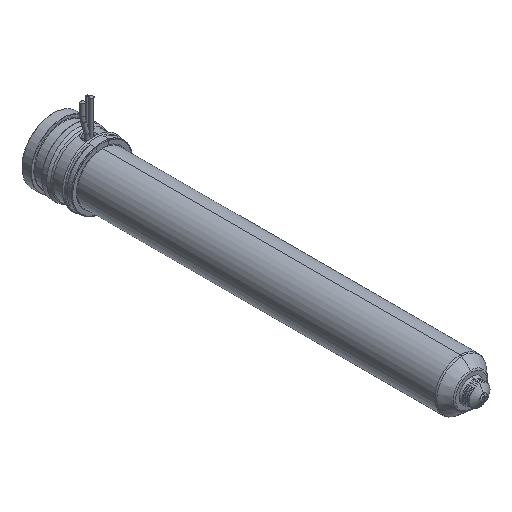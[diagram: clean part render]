
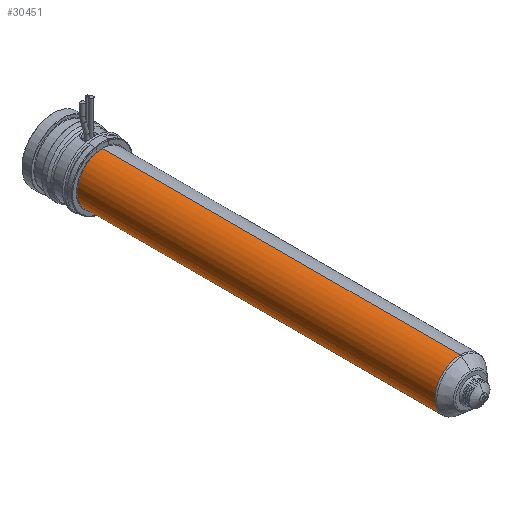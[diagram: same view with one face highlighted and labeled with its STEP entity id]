
A CAD part, isometric view. The second image highlights one B-rep face of the part: STEP entity #30451.
In plain terms, the highlighted cylindrical face has radius 12 mm (diameter 24 mm), a partial arc.
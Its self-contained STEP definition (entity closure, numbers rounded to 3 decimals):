
#29844=CARTESIAN_POINT('',(0.,-193.736,0.));
#29845=DIRECTION('',(0.,-1.,0.));
#29846=DIRECTION('',(0.,0.,1.));
#29847=AXIS2_PLACEMENT_3D('',#29844,#29845,#29846);
#29852=CARTESIAN_POINT('',(0.,-24.,0.));
#29853=DIRECTION('',(0.,1.,0.));
#29854=DIRECTION('',(0.,0.,-1.));
#29855=AXIS2_PLACEMENT_3D('',#29852,#29853,#29854);
#29860=DIRECTION('',(0.,1.,0.));
#29861=VECTOR('',#29860,169.736);
#29862=CARTESIAN_POINT('',(0.,-193.736,12.));
#29863=LINE('',#29862,#29861);
#29875=DIRECTION('',(0.,1.,0.));
#29876=VECTOR('',#29875,169.736);
#29877=CARTESIAN_POINT('',(0.,-193.736,-12.));
#29878=LINE('',#29877,#29876);
#30056=CARTESIAN_POINT('',(0.,-193.736,12.));
#30057=CARTESIAN_POINT('',(0.,-24.,12.));
#30058=VERTEX_POINT('',#30056);
#30059=VERTEX_POINT('',#30057);
#30060=CARTESIAN_POINT('',(0.,-193.736,-12.));
#30061=CARTESIAN_POINT('',(0.,-24.,-12.));
#30062=VERTEX_POINT('',#30060);
#30063=VERTEX_POINT('',#30061);
#30437=CARTESIAN_POINT('',(0.,-10.7,0.));
#30438=DIRECTION('',(0.,-1.,0.));
#30439=DIRECTION('',(0.,0.,1.));
#30440=AXIS2_PLACEMENT_3D('',#30437,#30438,#30439);
#30441=CYLINDRICAL_SURFACE('',#30440,12.);
#30443=ORIENTED_EDGE('',*,*,#30442,.F.);
#30444=ORIENTED_EDGE('',*,*,#30432,.T.);
#30446=ORIENTED_EDGE('',*,*,#30445,.T.);
#30448=ORIENTED_EDGE('',*,*,#30447,.T.);
#30449=EDGE_LOOP('',(#30443,#30444,#30446,#30448));
#30450=FACE_OUTER_BOUND('',#30449,.F.);
#30451=ADVANCED_FACE('',(#30450),#30441,.T.);
#29848=CIRCLE('',#29847,12.);
#29856=CIRCLE('',#29855,12.);
#30432=EDGE_CURVE('',#30058,#30062,#29848,.T.);
#30442=EDGE_CURVE('',#30058,#30059,#29863,.T.);
#30445=EDGE_CURVE('',#30062,#30063,#29878,.T.);
#30447=EDGE_CURVE('',#30063,#30059,#29856,.T.);
